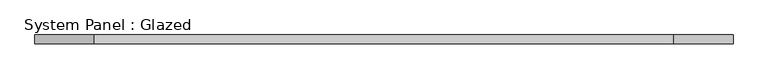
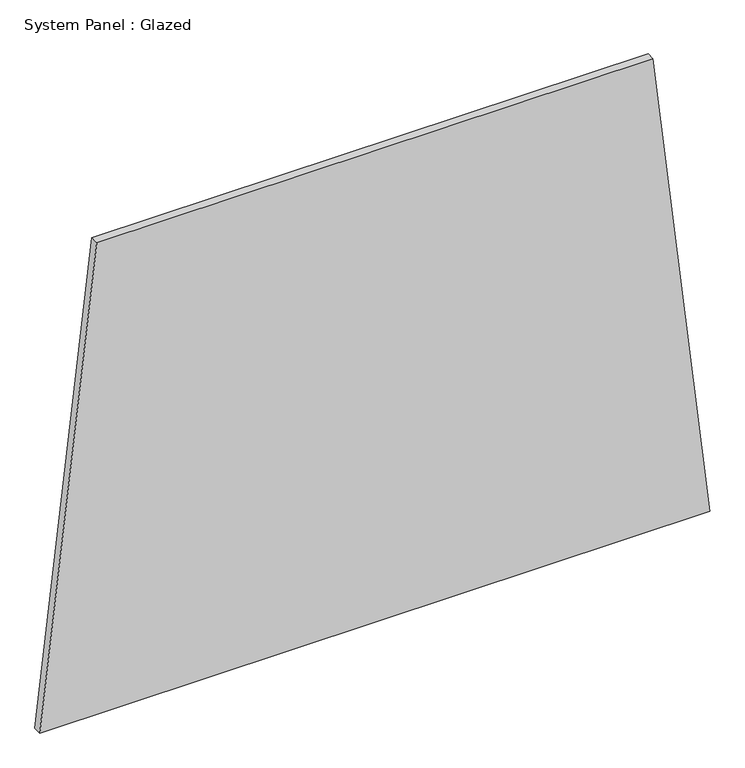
"""IFC4 building model written with IfcOpenShell, lengths in millimetres: plate geometry, System Panel : Glazed."""

from ifc_helpers import new_model, si_unit, frame, origin, place, context, project, spatial, polyline, outline, extrude, source, transform, mapped, element, save


def system_panel_glazed_ce843fd4(model_context):
    return source(origin(), model_context, "Body", "SweptSolid", [
        extrude(outline(polyline([(0.0, -1017.7623604), (0.0, 1017.7623604), (1514.1542959, 844.8092795), (1514.1542959, -844.8092795), (0.0, -1017.7623604)])), frame((0.0, -44.45, 0.0), z_axis=(0.0, 1.0, 0.0), x_axis=(0.0, 0.0, 1.0)), (0.0, 0.0, 1.0), 25.4),
    ])


if __name__ == "__main__":
    model = new_model("IFC4")
    model_context = context("Model", 3, world=origin())
    ifc_project = project(units=[si_unit("LENGTHUNIT", "METRE", prefix="MILLI")], contexts=[model_context])
    site = spatial("IfcSite", under=ifc_project)
    building = spatial("IfcBuilding", under=site)
    placement = place(None, origin())
    system_panel_glazed_shape = system_panel_glazed_ce843fd4(model_context)
    element("IfcPlate", 1, ObjectType="System Panel : Glazed", at=placement, inside=building, context=model_context, shape_type="MappedRepresentation", body=[
        mapped(system_panel_glazed_shape, transform((0.0, 0.0, 0.0), x_axis=(1.0, 0.0, 0.0), y_axis=(0.0, 1.0, 0.0), z_axis=(0.0, 0.0, 1.0))),
    ])
    save(model, "model.ifc")
